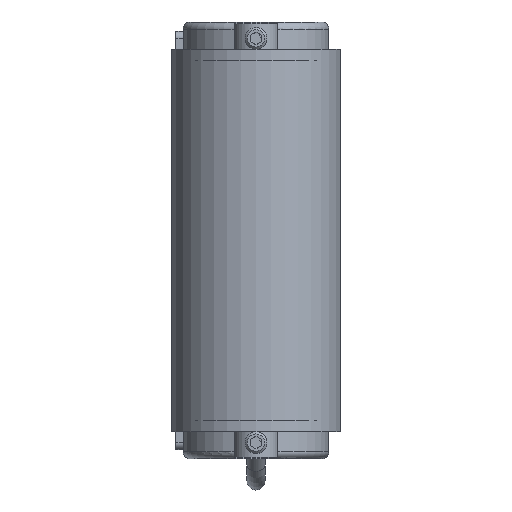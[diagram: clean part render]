
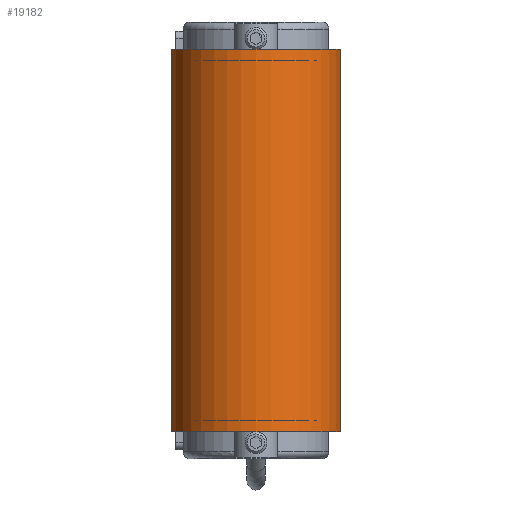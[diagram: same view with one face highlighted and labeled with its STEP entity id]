
A CAD part, front view. The second image highlights one B-rep face of the part: STEP entity #19182.
In plain terms, the highlighted cylindrical face has radius 23.3 mm (diameter 46.6 mm), a partial arc.
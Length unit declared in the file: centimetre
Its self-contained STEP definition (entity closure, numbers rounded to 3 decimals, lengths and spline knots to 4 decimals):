
#553=CYLINDRICAL_SURFACE('',#20492,2.33);
#1159=CIRCLE('',#20487,2.33);
#1162=CIRCLE('',#20493,2.33);
#1974=FACE_OUTER_BOUND('',#3017,.T.);
#3017=EDGE_LOOP('',(#12968,#12969,#12970,#12971));
#4341=LINE('',#28229,#5898);
#4342=LINE('',#28233,#5899);
#5898=VECTOR('',#23088,1.);
#5899=VECTOR('',#23093,1.);
#7615=VERTEX_POINT('',#28212);
#7616=VERTEX_POINT('',#28213);
#7621=VERTEX_POINT('',#28227);
#7622=VERTEX_POINT('',#28231);
#9697=EDGE_CURVE('',#7615,#7616,#1159,.T.);
#9705=EDGE_CURVE('',#7621,#7616,#4341,.T.);
#9706=EDGE_CURVE('',#7621,#7622,#1162,.T.);
#9707=EDGE_CURVE('',#7615,#7622,#4342,.T.);
#12968=ORIENTED_EDGE('',*,*,#9706,.T.);
#12969=ORIENTED_EDGE('',*,*,#9707,.F.);
#12970=ORIENTED_EDGE('',*,*,#9697,.T.);
#12971=ORIENTED_EDGE('',*,*,#9705,.F.);
#19182=ADVANCED_FACE('',(#1974),#553,.T.);
#20487=AXIS2_PLACEMENT_3D('',#28214,#23073,#23074);
#20492=AXIS2_PLACEMENT_3D('',#28230,#23089,#23090);
#20493=AXIS2_PLACEMENT_3D('',#28232,#23091,#23092);
#23073=DIRECTION('center_axis',(0.,0.,
-1.));
#23074=DIRECTION('ref_axis',(-1.,0.,0.));
#23088=DIRECTION('',(0.,0.,1.));
#23089=DIRECTION('center_axis',(0.,0.,
-1.));
#23090=DIRECTION('ref_axis',(-1.,0.,0.));
#23091=DIRECTION('center_axis',(0.,0.,
1.));
#23092=DIRECTION('ref_axis',(-1.,0.,0.));
#23093=DIRECTION('',(0.,0.,-1.));
#28212=CARTESIAN_POINT('',(2.33,-27.,5.25));
#28213=CARTESIAN_POINT('',(-2.33,-27.,5.25));
#28214=CARTESIAN_POINT('Origin',(0.,-27.,5.25));
#28227=CARTESIAN_POINT('',(-2.33,-27.,-5.25));
#28229=CARTESIAN_POINT('',(-2.33,-27.,0.));
#28230=CARTESIAN_POINT('Origin',(0.,-27.,0.));
#28231=CARTESIAN_POINT('',(2.33,-27.,-5.25));
#28232=CARTESIAN_POINT('Origin',(0.,-27.,-5.25));
#28233=CARTESIAN_POINT('',(2.33,-27.,0.));
